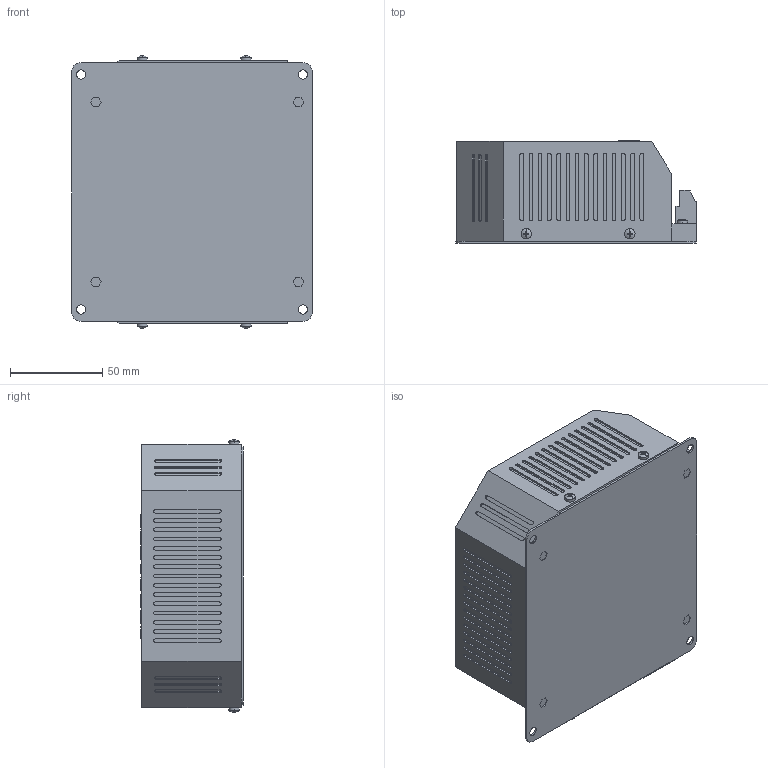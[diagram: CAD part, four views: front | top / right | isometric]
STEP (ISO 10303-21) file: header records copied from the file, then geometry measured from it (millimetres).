
FILE_DESCRIPTION((''),'2;1');
FILE_NAME('BAC2408_WZ_3','2024-01-23T',('Administrator'),(''),'PRO/ENGINEER BY PARAMETRIC TECHNOLOGY CORPORATION, 2011310','PRO/ENGINEER BY PARAMETRIC TECHNOLOGY CORPORATION, 2011310','');
FILE_SCHEMA(('AUTOMOTIVE_DESIGN_CC2 { 1 2 10303 214 -1 1 5 2 }'));
Length unit declared in the file: metre
Products named in the file (1): BAC2408_WZ_3
Bounding box: 130 x 55.5 x 147.24 mm (x, y, z)
Volume: 877894 mm3; surface area: 87382.3 mm2
Topology: 1 solids, 1 shells, 930 faces, 2509 edges, 1688 vertices
Faces by surface type: plane 534, cylinder 324, extrusion 60, sphere 12
Entity records: 38933 total; most frequent: CARTESIAN_POINT 8201, ORIENTED_EDGE 5018, DIRECTION 4899, EDGE_CURVE 2509, VERTEX_POINT 1688, AXIS2_PLACEMENT_3D 1652, VECTOR 1595, LINE 1535
